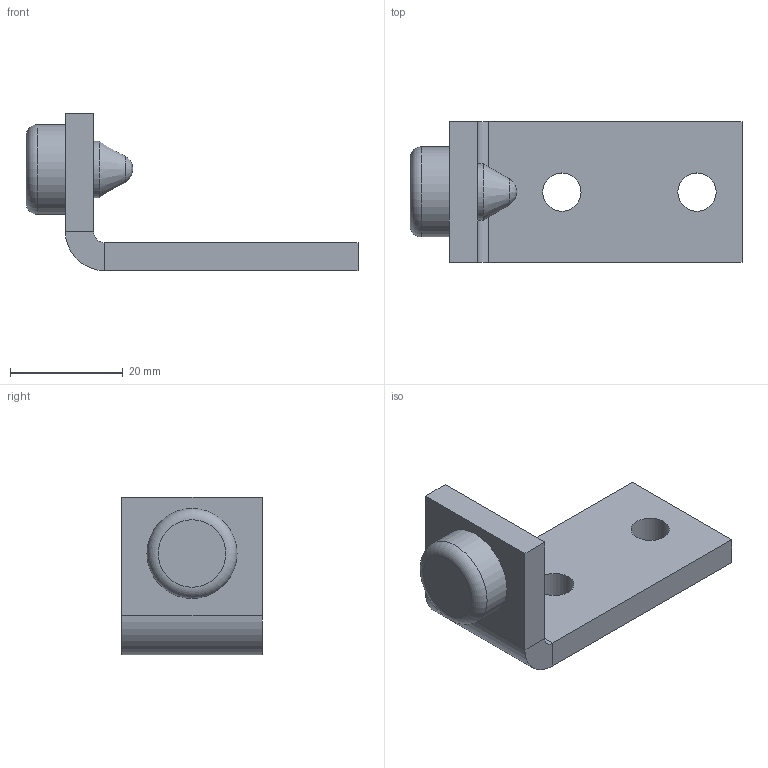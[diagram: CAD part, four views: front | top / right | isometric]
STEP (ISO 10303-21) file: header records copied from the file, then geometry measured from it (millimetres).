
FILE_DESCRIPTION(/* description */ ('Biegeteil mit Löchern'),/* implementation_level */ '2;1');
FILE_NAME(/* name */ 'Q:\sge-ma\Produktmanagement-STB\STB\Workspace\TraceParts\Winkelpuffer\010336010.stp',/* time_stamp */ '2018-03-05T07:41:52+01:00',/* author */ ('avschreier'),/* organization */ (''),/* preprocessor_version */ 'ST-DEVELOPER v16.1',/* originating_system */ 'Autodesk Inventor 2016',/* authorisation */ '');
FILE_SCHEMA (('CONFIG_CONTROL_DESIGN'));
Length unit declared in the file: millimetre
Products named in the file (3): 337000250; 004203030; 010336010
Assembly tree (2 placements, depth 2):
  010336010
    337000250
    004203030
Bounding box: 59 x 25 x 28 mm (x, y, z)
Volume: 10438 mm3; surface area: 5707.3 mm2
Topology: 2 solids, 2 shells, 28 faces, 56 edges, 34 vertices
Faces by surface type: plane 16, cylinder 8, torus 2, cone 1, bspline 1
Full cylindrical faces by diameter (mm): 6.8 x2, 8 x2, 10 x1, 16 x1
Entity records: 782 total; most frequent: CARTESIAN_POINT 142, DIRECTION 132, ORIENTED_EDGE 94, AXIS2_PLACEMENT_3D 54, EDGE_CURVE 47, EDGE_LOOP 45, VERTEX_POINT 34, FACE_OUTER_BOUND 28
